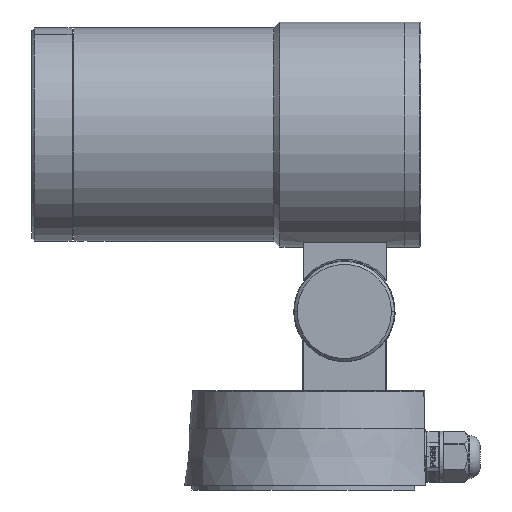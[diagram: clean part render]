
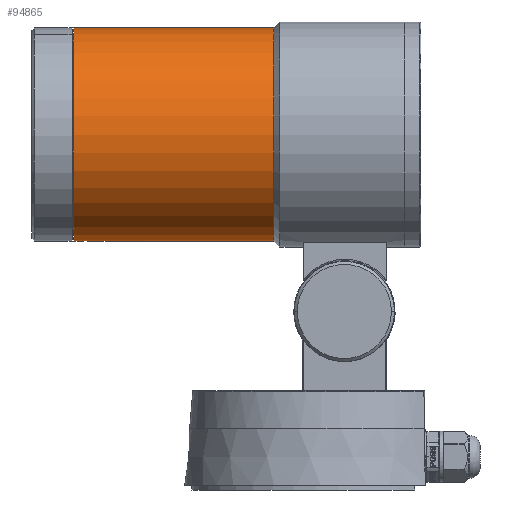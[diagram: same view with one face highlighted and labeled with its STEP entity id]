
A CAD part, left-side view. The second image highlights one B-rep face of the part: STEP entity #94865.
In plain terms, the highlighted cylindrical face has radius 45 mm (diameter 90 mm), a partial arc.
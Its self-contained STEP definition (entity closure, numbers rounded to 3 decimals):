
#84775=CARTESIAN_POINT('',(-55.,0.,-300.));
#84776=DIRECTION('',(-1.,0.,0.));
#84777=DIRECTION('',(0.,0.,-1.));
#84778=AXIS2_PLACEMENT_3D('',#84775,#84776,#84777);
#84780=CARTESIAN_POINT('',(-136.75,0.,-345.));
#84781=CARTESIAN_POINT('',(-136.75,-0.217,-345.));
#84782=CARTESIAN_POINT('',(-136.69,-0.633,
-344.997));
#84783=CARTESIAN_POINT('',(-136.423,-1.228,
-344.984));
#84784=CARTESIAN_POINT('',(-135.996,-1.721,
-344.968));
#84785=CARTESIAN_POINT('',(-135.456,-2.071,
-344.953));
#84786=CARTESIAN_POINT('',(-134.823,-2.258,
-344.943));
#84787=CARTESIAN_POINT('',(-134.18,-2.258,
-344.943));
#84788=CARTESIAN_POINT('',(-133.548,-2.073,
-344.952));
#84789=CARTESIAN_POINT('',(-133.006,-1.723,
-344.968));
#84790=CARTESIAN_POINT('',(-132.579,-1.23,
-344.984));
#84791=CARTESIAN_POINT('',(-132.31,-0.635,
-344.997));
#84792=CARTESIAN_POINT('',(-132.25,-0.218,-345.));
#84793=CARTESIAN_POINT('',(-132.25,0.,-345.));
#84818=DIRECTION('',(1.,0.,0.));
#84819=VECTOR('',#84818,77.25);
#84820=CARTESIAN_POINT('',(-132.25,0.,-345.));
#84821=LINE('',#84820,#84819);
#84822=DIRECTION('',(-1.,0.,0.));
#84823=VECTOR('',#84822,84.5);
#84824=CARTESIAN_POINT('',(-55.,0.,-255.));
#84825=LINE('',#84824,#84823);
#84826=DIRECTION('',(1.,0.,0.));
#84827=VECTOR('',#84826,2.75);
#84828=CARTESIAN_POINT('',(-139.5,0.,-345.));
#84829=LINE('',#84828,#84827);
#84830=CARTESIAN_POINT('',(-139.5,0.,-300.));
#84831=DIRECTION('',(1.,0.,0.));
#84832=DIRECTION('',(0.,0.,1.));
#84833=AXIS2_PLACEMENT_3D('',#84830,#84831,#84832);
#93168=CARTESIAN_POINT('',(-55.,0.,-255.));
#93169=VERTEX_POINT('',#93168);
#93170=CARTESIAN_POINT('',(-55.,0.,-345.));
#93171=VERTEX_POINT('',#93170);
#93172=CARTESIAN_POINT('',(-139.5,0.,-255.));
#93173=CARTESIAN_POINT('',(-139.5,0.,-345.));
#93174=VERTEX_POINT('',#93172);
#93175=VERTEX_POINT('',#93173);
#94186=VERTEX_POINT('',#84780);
#94187=VERTEX_POINT('',#84793);
#94847=CARTESIAN_POINT('',(-144.25,0.,-300.));
#94848=DIRECTION('',(1.,0.,0.));
#94849=DIRECTION('',(0.,0.,-1.));
#94850=AXIS2_PLACEMENT_3D('',#94847,#94848,#94849);
#94851=CYLINDRICAL_SURFACE('',#94850,45.);
#94853=ORIENTED_EDGE('',*,*,#94852,.F.);
#94855=ORIENTED_EDGE('',*,*,#94854,.F.);
#94857=ORIENTED_EDGE('',*,*,#94856,.F.);
#94859=ORIENTED_EDGE('',*,*,#94858,.F.);
#94860=ORIENTED_EDGE('',*,*,#94841,.F.);
#94862=ORIENTED_EDGE('',*,*,#94861,.F.);
#94863=EDGE_LOOP('',(#94853,#94855,#94857,#94859,#94860,#94862));
#94864=FACE_OUTER_BOUND('',#94863,.F.);
#94865=ADVANCED_FACE('',(#94864),#94851,.T.);
#84779=CIRCLE('',#84778,45.);
#84794=B_SPLINE_CURVE_WITH_KNOTS('',3,(#84780,#84781,#84782,#84783,#84784,
#84785,#84786,#84787,#84788,#84789,#84790,#84791,#84792,#84793),.UNSPECIFIED.,
.F.,.F.,(4,1,1,1,1,1,1,1,1,1,1,4),(0.,0.091,0.182,
0.273,0.364,0.455,0.545,
0.636,0.727,0.818,0.909,1.),
.UNSPECIFIED.);
#84834=CIRCLE('',#84833,45.);
#94841=EDGE_CURVE('',#93171,#93169,#84779,.T.);
#94852=EDGE_CURVE('',#94186,#94187,#84794,.T.);
#94854=EDGE_CURVE('',#93175,#94186,#84829,.T.);
#94856=EDGE_CURVE('',#93174,#93175,#84834,.T.);
#94858=EDGE_CURVE('',#93169,#93174,#84825,.T.);
#94861=EDGE_CURVE('',#94187,#93171,#84821,.T.);
